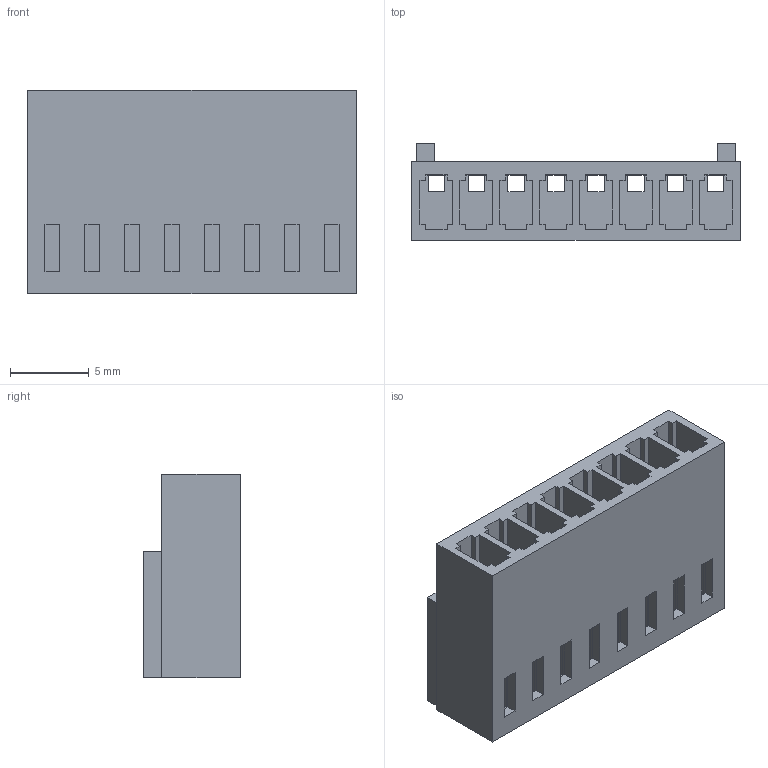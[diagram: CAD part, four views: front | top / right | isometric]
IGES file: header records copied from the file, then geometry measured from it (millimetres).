
Start section: SolidWorks IGES file using analytic representation for surfaces
Global section: file name: \\dataperusahaan\4. DOKUMEN DIVISI ELEKTRONIKA\library rmi\Library 3D\Conector\CI32 8\CI32 8 PIN FEMALE_.IGS; native system: SolidWorks 2014; preprocessor: SolidWorks 2014; author: RMI-EL-DIV-3; date: 170907.141534; units: millimetre
Bounding box: 20.9 x 6.15 x 12.95 mm (x, y, z)
Surface area: 2016.4 mm2 (no closed solid volume)
Topology: 0 solids, 0 shells, 206 faces, 1160 edges, 1160 vertices
Faces by surface type: bspline 206
